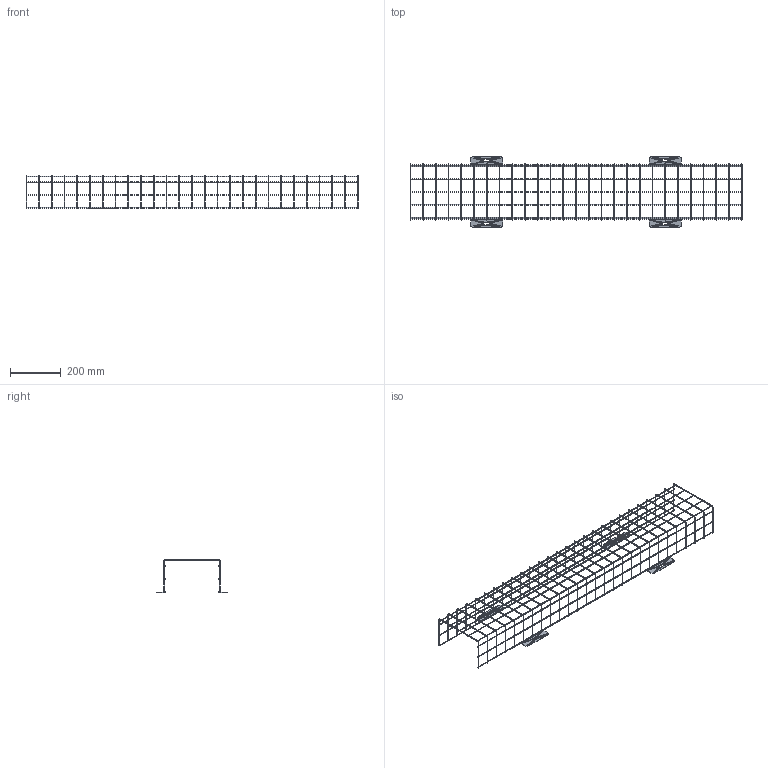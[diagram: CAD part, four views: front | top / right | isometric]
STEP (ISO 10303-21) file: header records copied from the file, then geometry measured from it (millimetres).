
FILE_DESCRIPTION((''),'2;1');
FILE_NAME('020042', '2025-07-25T07:01:33', (''), (''), 'ImageToStl.com STEP Converter','', '');
FILE_SCHEMA(('AUTOMOTIVE_DESIGN_CC2'));
Length unit declared in the file: metre
Products named in the file (1): product0
Bounding box: 1303 x 279 x 130.5 mm (x, y, z)
Surface area: 283056.6 mm2 (no closed solid volume)
Topology: 0 solids, 8720 shells, 8720 faces, 26160 edges, 4436 vertices
Faces by surface type: plane 8720
Entity records: 200740 total; most frequent: DIRECTION 43602, ORIENTED_EDGE 26160, EDGE_CURVE 26160, LINE 26160, VECTOR 26160, AXIS2_PLACEMENT_3D 8721, FACE_SURFACE 8720, PLANE 8720
